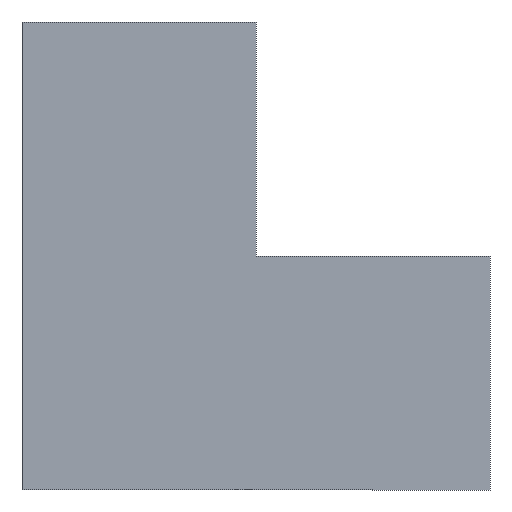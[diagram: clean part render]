
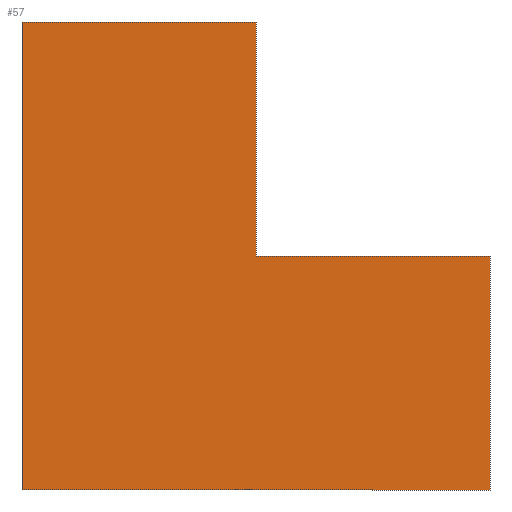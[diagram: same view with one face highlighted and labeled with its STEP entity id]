
A CAD part, front view. The second image highlights one B-rep face of the part: STEP entity #57.
In plain terms, the highlighted planar face has unit normal (0, -1, 0).
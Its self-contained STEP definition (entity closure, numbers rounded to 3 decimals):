
#2 = CARTESIAN_POINT ( 'NONE',  ( 0., 0., 0. ) ) ;
#7 = CARTESIAN_POINT ( 'NONE',  ( 0., 0., -450. ) ) ;
#8 = CARTESIAN_POINT ( 'NONE',  ( 0., 0., 0. ) ) ;
#11 = DIRECTION ( 'NONE',  ( 0., 0., -1. ) ) ;
#12 = ORIENTED_EDGE ( 'NONE', *, *, #61, .F. ) ;
#16 = VERTEX_POINT ( 'NONE', #54 ) ;
#21 = ORIENTED_EDGE ( 'NONE', *, *, #122, .F. ) ;
#24 = ORIENTED_EDGE ( 'NONE', *, *, #177, .F. ) ;
#26 = VECTOR ( 'NONE', #279, 1000. ) ;
#28 = DIRECTION ( 'NONE',  ( 0., 0., 1. ) ) ;
#33 = EDGE_CURVE ( 'NONE', #135, #121, #150, .T. ) ;
#35 = LINE ( 'NONE', #8, #108 ) ;
#38 = ORIENTED_EDGE ( 'NONE', *, *, #33, .F. ) ;
#50 = CARTESIAN_POINT ( 'NONE',  ( 0., 0., -450. ) ) ;
#54 = CARTESIAN_POINT ( 'NONE',  ( 0., 0., 0. ) ) ;
#57 = ADVANCED_FACE ( 'NONE', ( #125 ), #74, .F. ) ;
#61 = EDGE_CURVE ( 'NONE', #121, #16, #280, .T. ) ;
#74 = PLANE ( 'NONE',  #218 ) ;
#78 = CARTESIAN_POINT ( 'NONE',  ( -450., 0., -900. ) ) ;
#97 = VECTOR ( 'NONE', #175, 1000. ) ;
#108 = VECTOR ( 'NONE', #11, 1000. ) ;
#114 = ORIENTED_EDGE ( 'NONE', *, *, #262, .F. ) ;
#121 = VERTEX_POINT ( 'NONE', #219 ) ;
#122 = EDGE_CURVE ( 'NONE', #188, #145, #169, .T. ) ;
#123 = LINE ( 'NONE', #190, #26 ) ;
#125 = FACE_OUTER_BOUND ( 'NONE', #206, .T. ) ;
#135 = VERTEX_POINT ( 'NONE', #78 ) ;
#145 = VERTEX_POINT ( 'NONE', #172 ) ;
#150 = LINE ( 'NONE', #194, #245 ) ;
#159 = VECTOR ( 'NONE', #217, 1000. ) ;
#169 = LINE ( 'NONE', #7, #238 ) ;
#172 = CARTESIAN_POINT ( 'NONE',  ( 450., 0., -450. ) ) ;
#175 = DIRECTION ( 'NONE',  ( -1., 0., 0. ) ) ;
#177 = EDGE_CURVE ( 'NONE', #145, #234, #123, .T. ) ;
#182 = ORIENTED_EDGE ( 'NONE', *, *, #261, .F. ) ;
#188 = VERTEX_POINT ( 'NONE', #50 ) ;
#190 = CARTESIAN_POINT ( 'NONE',  ( 450., 0., -450. ) ) ;
#192 = DIRECTION ( 'NONE',  ( 0., 1., 0. ) ) ;
#194 = CARTESIAN_POINT ( 'NONE',  ( -450., 0., -900. ) ) ;
#196 = CARTESIAN_POINT ( 'NONE',  ( -450., 0., 0. ) ) ;
#206 = EDGE_LOOP ( 'NONE', ( #12, #38, #182, #24, #21, #114 ) ) ;
#217 = DIRECTION ( 'NONE',  ( 1., 0., 0. ) ) ;
#218 = AXIS2_PLACEMENT_3D ( 'NONE', #2, #192, #28 ) ;
#219 = CARTESIAN_POINT ( 'NONE',  ( -450., 0., 0. ) ) ;
#225 = CARTESIAN_POINT ( 'NONE',  ( 450., 0., -900. ) ) ;
#234 = VERTEX_POINT ( 'NONE', #244 ) ;
#238 = VECTOR ( 'NONE', #286, 1000. ) ;
#244 = CARTESIAN_POINT ( 'NONE',  ( 450., 0., -900. ) ) ;
#245 = VECTOR ( 'NONE', #282, 1000. ) ;
#261 = EDGE_CURVE ( 'NONE', #234, #135, #292, .T. ) ;
#262 = EDGE_CURVE ( 'NONE', #16, #188, #35, .T. ) ;
#279 = DIRECTION ( 'NONE',  ( 0., 0., -1. ) ) ;
#280 = LINE ( 'NONE', #196, #159 ) ;
#282 = DIRECTION ( 'NONE',  ( 0., 0., 1. ) ) ;
#286 = DIRECTION ( 'NONE',  ( 1., 0., 0. ) ) ;
#292 = LINE ( 'NONE', #225, #97 ) ;
